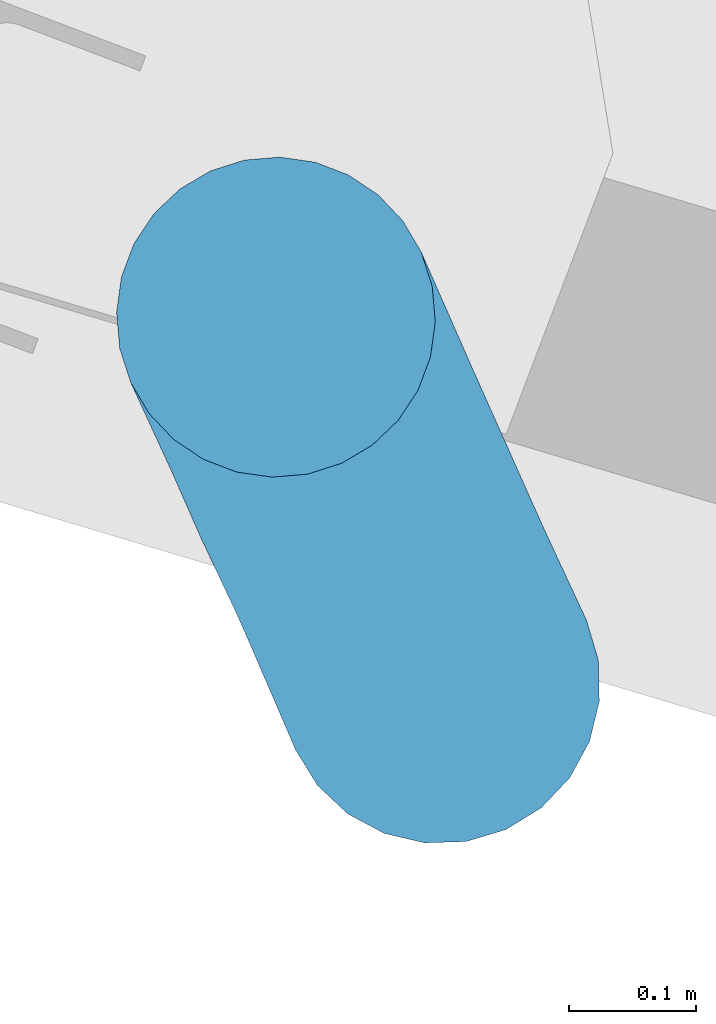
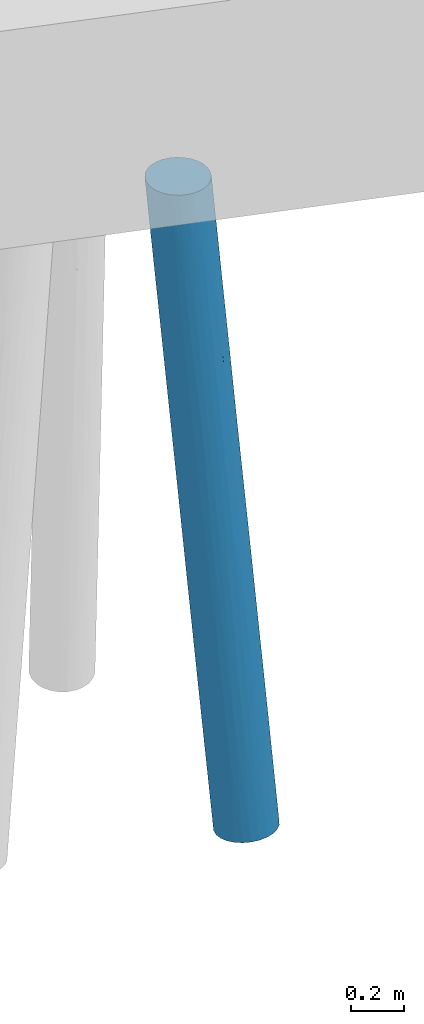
# One storey, part 2 of 46: 1 pile.
"""IFC2X3 building model written with IfcOpenShell, lengths in millimetres."""

from ifc_helpers import new_model, entity, si_unit, converted_unit, derived_unit, direction, frame, origin, place, context, subcontext, project, spatial, faceted_brep, source, transform, mapped, material, type_object, type_shapes, element, save


model = new_model("IFC2X3")

# Units and contexts
model_context = context("Model", 3, precision=0.01, world=origin(), true_north=direction((6.123233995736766e-17, 1.0)))
body_context = subcontext(model_context, "Body", "Model", "MODEL_VIEW")
ifc_project = project(units=[si_unit("LENGTHUNIT", "METRE", prefix="MILLI"), converted_unit("PLANEANGLEUNIT", "DEGREE", entity("IfcPlaneAngleMeasure", 0.017453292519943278), si_unit("PLANEANGLEUNIT", "RADIAN"), dimensions=[0, 0, 0, 0, 0, 0, 0]), si_unit("AREAUNIT", "SQUARE_METRE"), derived_unit("THERMALTRANSMITTANCEUNIT", [(si_unit("MASSUNIT", "GRAM", prefix="KILO"), 1), (si_unit("THERMODYNAMICTEMPERATUREUNIT", "KELVIN"), -1), (si_unit("TIMEUNIT", "SECOND"), -3)])], contexts=[model_context])

# Site, building, storey
site_placement = place(None, frame((-72937.88054949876, 11621.45624098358, 0.0), z_axis=(0.0, 0.0, 1.0), x_axis=(0.9346418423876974, -0.35559053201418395, 0.0)))
site = spatial("IfcSite", under=ifc_project, at=site_placement, Name="Default", CompositionType="ELEMENT")
building_placement = place(site_placement, origin())
building = spatial("IfcBuilding", under=site, at=building_placement, CompositionType="ELEMENT")
storey_placement = place(building_placement, origin())
storey = spatial("IfcBuildingStorey", under=building, at=storey_placement, Name="00 begane grond", CompositionType="ELEMENT", Elevation=0.0)

# Pile
ifc_material = material(Name="beton_gewapend_prefab-element_c45/55")
type_product = type_object("IfcTypeProduct", Name="Type 01", material=ifc_material)
shared_shape = source(origin(), body_context, "Body", "Brep", [
    faceted_brep([(72.36643070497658, 41.239861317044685, -1587.2480771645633), (115.53639022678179, 54.2354673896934, -1150.0), (124.838162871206, 27.815116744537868, -1150.0), (-182.0787577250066, 65.1457063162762, -1842.6627389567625), (-165.1894529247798, 41.33003827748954, -1588.4448595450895), (-111.09194578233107, 54.23546738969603, -1150.0), (15.031797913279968, 88.27496307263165, -1836.1297740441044), (32.98344934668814, 64.94314047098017, -1840.3127773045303), (-30.14575159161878, 64.60051474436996, -2410.3553271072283), (41.77006032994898, 0.0, -1925.992599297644), (80.6380595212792, 97.7289353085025, -1150.0), (100.55257203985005, 77.9362252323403, -1150.0), (-175.6519081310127, 115.48494156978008, -3184.035406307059), (-108.17343100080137, 106.74566752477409, -2732.5343267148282), (-180.54618184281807, 99.16916754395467, -3483.986786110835), (30.20851053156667, 121.8659890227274, -1150.0), (56.79144948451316, 112.62110848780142, -1150.0), (-42.91884640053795, 117.90464735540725, -1932.2038124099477), (-120.39371842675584, 27.81511674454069, -1150.0), (-245.70385641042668, 64.88368548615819, -2413.8437241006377), (-162.25875578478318, 88.50075404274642, -1830.9574517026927), (-242.98263969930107, 88.62069146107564, -2558.5627355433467), (-151.93048965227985, 53.33845094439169, -3561.073967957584), (-133.56769714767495, 28.49629953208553, -3474.2266886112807), (-194.4421984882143, 32.35238063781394, -4013.333582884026), (12.222467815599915, 106.275938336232, -1655.8961403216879), (-73.06982999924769, 124.27812918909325, -1949.1011896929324), (-80.64748703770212, 124.23668125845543, -1770.9263967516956), (-23.427620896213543, 124.20079095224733, -1508.6429901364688), (-240.21076201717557, 123.93060767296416, -3479.642475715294), (-314.4444444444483, 125.0, -4000.0), (-265.024992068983, 123.93060767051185, -3407.479310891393), (-117.33081280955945, 0.0, -3357.900457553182), (-190.20897761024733, 0.0, -4013.803940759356), (2.2222222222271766, 125.0, -1150.0), (-25.764066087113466, 121.86598902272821, -1150.0), (-326.96702366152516, 47.83542903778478, -3066.942589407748), (-375.2689438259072, 28.366113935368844, -3445.0277270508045), (-317.9689709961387, 23.60182842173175, -2920.157783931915), (-73.70805836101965, 23.187811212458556, -2945.6497765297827), (-39.92708990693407, 41.47720200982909, -2597.136214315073), (16.085837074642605, 41.18767244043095, -2093.938466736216), (-196.28435151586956, 123.47165352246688, -2760.095105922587), (-183.665203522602, 123.01104339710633, -3024.1067526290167), (-226.59670338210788, 88.38834764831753, -4009.7608601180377), (-252.3267110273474, 108.25317547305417, -4006.901970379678), (-148.27550792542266, 76.09517863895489, -3402.494577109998), (-206.8533741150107, 62.49999999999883, -4011.9545633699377), (-52.347005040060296, 112.62110848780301, -1150.0), (-99.40312932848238, 118.21391771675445, -1696.7443345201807), (-119.74622127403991, 106.37235269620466, -1653.229951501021), (-185.92128902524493, 102.46025049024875, -2194.904710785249), (-238.2779479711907, 106.2597512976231, -2718.3665211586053), (-42.820885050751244, 102.58547775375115, -2202.1491422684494), (-156.2252162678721, 118.09364807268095, -2204.9892079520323), (-319.0271104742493, 115.48494156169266, -3608.075760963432), (-264.72929865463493, 115.48494155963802, -3119.3954545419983), (-96.10812759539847, 77.93622523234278, -1150.0), (-76.19361507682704, 97.72893530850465, -1150.0), (-1.3402226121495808, 0.0, -2313.985145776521), (-44.451993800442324, 0.0, -2701.9910864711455), (-292.6922084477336, 91.63383624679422, -3034.349570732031), (-292.9202820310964, 72.79893776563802, -2886.1326580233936), (-227.31882224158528, 115.48494156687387, -3649.0376333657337), (-282.2899395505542, 120.74072828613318, -4003.5727227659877), (-221.60043037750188, 41.38232604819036, -2096.309657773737), (-209.76851175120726, 0.0, -1925.9934634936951), (-346.59894933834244, 120.74072828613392, -3996.4272772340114), (-376.56217786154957, 108.25317547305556, -3993.0980296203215), (-66.21715172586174, 88.15377228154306, -2568.4634430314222), (-129.97696806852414, 118.32629651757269, -2704.701988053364), (-123.5470158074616, 0.0, -1150.0), (-345.703852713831, 76.09517862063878, -3383.3196685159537), (-377.5274465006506, 52.979842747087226, -3542.5215927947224), (-275.88856858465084, 42.22399193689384, -2587.6075033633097), (-402.29218550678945, 88.38834764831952, -3990.239139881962), (-422.0355147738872, 62.50000000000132, -3988.0454366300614), (-331.8470727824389, 99.16916753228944, -3467.5525053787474), (-132.44344591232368, 124.68323586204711, -2281.458802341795), (-89.11715414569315, 71.65077909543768, -2899.5648185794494), (-96.52658231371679, 47.8354290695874, -3084.4998642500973), (127.99146025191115, 0.0, -1150.0), (-252.87925972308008, 0.0, -2313.9901952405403), (-122.93481462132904, 90.89446365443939, -3053.447507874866), (-438.679911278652, 0.0, -3986.1960592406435), (-434.4466904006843, 32.352380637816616, -3986.6664171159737), (-141.73877836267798, 124.16072599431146, -2576.5969257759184), (-210.06991733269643, 117.23436667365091, -2667.881922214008), (-367.33495948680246, 0.0, -3344.091493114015), (-295.9900076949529, 0.0, -2701.9869269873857), (-120.39371842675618, -27.815116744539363, -1150.0), (-111.09194578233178, -54.23546738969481, -1150.0), (-96.10812759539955, -77.93622523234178, -1150.0), (-76.1936150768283, -97.72893530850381, -1150.0), (-52.34700504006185, -112.62110848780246, -1150.0), (-25.76406608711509, -121.86598902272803, -1150.0), (2.222222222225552, -125.0, -1150.0), (30.20851053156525, -121.86598902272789, -1150.0), (56.79144948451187, -112.62110848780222, -1150.0), (80.63805952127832, -97.7289353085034, -1150.0), (100.55257203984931, -77.93622523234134, -1150.0), (115.53639022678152, -54.23546738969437, -1150.0), (124.83816287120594, -27.815116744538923, -1150.0), (-151.9304895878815, -53.338451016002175, -3561.073967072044), (-133.5676976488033, -28.496299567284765, -3474.2266930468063), (-96.52658225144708, -47.83542901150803, -3084.4998639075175), (-140.32328536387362, -105.94191584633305, -1832.1538289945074), (-126.78568187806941, -88.44799753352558, -1511.2211246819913), (-176.7825211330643, -87.58614607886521, -1953.453255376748), (-185.53475823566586, -41.3488976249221, -1771.6124540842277), (-98.5233768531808, -124.24251446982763, -1932.2861052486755), (-221.49211536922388, -66.66107193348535, -2205.8974607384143), (-159.3540506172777, -67.83984168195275, -1653.46778938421), (-312.10423006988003, -99.16916769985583, -3289.866922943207), (-352.8086337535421, -76.09517892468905, -3447.262699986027), (-402.2921855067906, -88.38834764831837, -3990.239139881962), (-235.41358059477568, -123.93060766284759, -3436.4678436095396), (-314.44444444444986, -125.0, -4000.0), (-282.2899395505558, -120.74072828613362, -4003.5727227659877), (-384.2243809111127, -47.83542945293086, -3582.258806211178), (-328.2998352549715, -47.83542988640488, -3078.9378969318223), (-362.94366171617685, -26.27355326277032, -3329.855963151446), (-376.562177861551, -108.25317547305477, -3993.0980296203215), (-226.59670338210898, -88.38834764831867, -4009.7608601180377), (-148.27550783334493, -76.0951785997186, -3402.49457655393), (-180.54618171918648, -99.16916751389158, -3483.9867853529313), (-104.92272192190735, -118.27912572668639, -1748.1433712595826), (-163.52036571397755, -118.46525212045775, -2280.4898650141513), (-39.927089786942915, -41.4772017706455, -2597.1362139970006), (-89.11715398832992, -71.6507788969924, -2899.5648184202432), (-221.11735801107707, -106.04994682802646, -2560.8655013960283), (-274.28881423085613, -82.15433137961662, -2785.484682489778), (-434.4466904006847, -32.35238063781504, -3986.6664171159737), (-422.03551477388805, -62.49999999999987, -3988.0454366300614), (-129.97696798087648, -118.32629644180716, -2704.7019892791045), (-141.73877802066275, -124.16072595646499, -2576.596925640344), (-180.90977316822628, -122.95522291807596, -3002.087637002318), (-232.56829871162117, -117.68101498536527, -2881.4778788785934), (-242.59310629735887, -123.930607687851, -3205.592340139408), (-180.2811496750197, -124.04234815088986, -2652.6852150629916), (-346.598949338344, -120.7407282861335, -3996.4272772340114), (-301.7888662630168, -115.48494161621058, -3452.931564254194), (-206.85337411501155, -62.50000000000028, -4011.9545633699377), (-29.559553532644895, -124.19873841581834, -1563.993853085), (-83.4987298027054, -124.18127902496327, -2050.828488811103), (-42.91884618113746, -117.90464729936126, -1932.2038118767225), (-30.14575143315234, -64.60051457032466, -2410.3553266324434), (32.983449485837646, -64.94314037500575, -1840.3127765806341), (15.03179802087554, -88.27496298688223, -1836.1297738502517), (12.222467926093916, -106.27593827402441, -1655.89614023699), (-42.820884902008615, -102.58547764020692, -2202.149142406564), (-73.70805863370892, -23.18781108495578, -2945.6497792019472), (72.36643080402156, -41.2398612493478, -1587.2480764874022), (16.08583725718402, -41.18767230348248, -2093.9384655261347), (-221.94118502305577, -91.78881553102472, -2399.105716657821), (-122.93481449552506, -90.89446347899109, -3053.447508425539), (-66.2171515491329, -88.15377212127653, -2568.463442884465), (-108.173430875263, -106.74566744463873, -2732.534326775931), (-262.27997921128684, -34.77836369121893, -2443.29023072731), (-252.32671102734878, -108.25317547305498, -4006.901970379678), (-227.31882233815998, -115.48494155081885, -3649.0376345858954), (-277.036285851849, -61.03344887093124, -2675.5040755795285), (-194.44219848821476, -32.35238063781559, -4013.333582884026), (-312.1095376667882, -26.52940126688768, -2872.8494770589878), (-175.65190824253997, -115.48494153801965, -3184.0354080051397)], [[[0, 1, 2]], [[3, 4, 5]], [[6, 7, 8]], [[0, 2, 9]], [[10, 11, 6]], [[12, 13, 14]], [[15, 16, 17]], [[18, 5, 4]], [[19, 20, 21]], [[22, 23, 24]], [[25, 16, 10]], [[26, 27, 28]], [[29, 30, 31]], [[23, 32, 33]], [[7, 6, 11]], [[34, 27, 35]], [[36, 37, 38]], [[23, 39, 32]], [[40, 8, 41]], [[31, 42, 43]], [[14, 44, 45]], [[19, 3, 20]], [[34, 15, 28]], [[46, 47, 44]], [[48, 49, 50]], [[51, 52, 21]], [[17, 25, 53]], [[46, 22, 47]], [[49, 54, 50]], [[31, 55, 56]], [[20, 57, 58]], [[41, 9, 59, 60]], [[21, 61, 62]], [[41, 7, 0]], [[63, 45, 64]], [[4, 65, 66]], [[57, 3, 5]], [[50, 51, 20]], [[55, 67, 68]], [[56, 42, 31]], [[13, 53, 69]], [[12, 70, 13]], [[66, 71, 18]], [[36, 72, 73]], [[31, 30, 67]], [[36, 38, 74]], [[21, 52, 61]], [[74, 62, 36]], [[36, 73, 37]], [[72, 75, 76]], [[72, 77, 75]], [[50, 20, 58]], [[46, 44, 14]], [[7, 41, 8]], [[42, 54, 78]], [[26, 78, 27]], [[79, 40, 80]], [[9, 2, 81]], [[82, 66, 65]], [[60, 39, 40]], [[83, 14, 13]], [[77, 68, 75]], [[84, 37, 85]], [[21, 62, 19]], [[29, 64, 30]], [[31, 43, 29]], [[83, 79, 46]], [[12, 14, 63]], [[68, 77, 55]], [[77, 61, 52]], [[64, 29, 63]], [[43, 70, 12]], [[7, 11, 1]], [[41, 0, 9]], [[1, 0, 7]], [[69, 6, 8]], [[69, 8, 79]], [[40, 79, 8]], [[18, 4, 66]], [[65, 4, 3]], [[19, 65, 3]], [[20, 3, 57]], [[65, 19, 74]], [[72, 36, 62]], [[86, 42, 78]], [[52, 87, 56]], [[69, 79, 83]], [[46, 79, 80]], [[13, 69, 83]], [[14, 83, 46]], [[6, 69, 53]], [[86, 17, 70]], [[6, 53, 25]], [[17, 53, 70]], [[6, 25, 10]], [[16, 25, 17]], [[80, 40, 39]], [[40, 41, 60]], [[80, 39, 23]], [[39, 60, 32]], [[80, 23, 22]], [[24, 23, 33]], [[80, 22, 46]], [[47, 22, 24]], [[74, 19, 62]], [[77, 72, 61]], [[62, 61, 72]], [[56, 77, 52]], [[42, 56, 87]], [[20, 51, 21]], [[51, 54, 52]], [[54, 49, 27]], [[51, 50, 54]], [[48, 50, 58]], [[53, 13, 70]], [[86, 70, 43]], [[86, 43, 42]], [[29, 43, 12]], [[67, 55, 31]], [[82, 65, 74]], [[38, 88, 89, 82]], [[88, 38, 37]], [[88, 37, 84]], [[76, 85, 73]], [[37, 73, 85]], [[76, 73, 72]], [[87, 54, 42]], [[87, 52, 54]], [[82, 74, 38]], [[56, 55, 77]], [[17, 86, 26]], [[27, 78, 54]], [[78, 26, 86]], [[15, 17, 28]], [[34, 28, 27]], [[26, 28, 17]], [[45, 63, 14]], [[12, 63, 29]], [[49, 35, 27]], [[35, 49, 48]], [[48, 58, 57, 5, 18, 71, 90, 91, 92, 93, 94, 95, 96, 97, 98, 99, 100, 101, 102, 81, 2, 1, 11, 10, 16, 15, 34, 35]], [[103, 104, 105]], [[9, 81, 102]], [[106, 107, 108]], [[91, 90, 109]], [[96, 95, 110]], [[109, 111, 112]], [[113, 114, 115]], [[116, 117, 118]], [[93, 106, 94]], [[119, 120, 121]], [[122, 113, 115]], [[112, 111, 108]], [[123, 124, 125]], [[126, 127, 110]], [[88, 84, 121]], [[90, 71, 66]], [[128, 129, 105]], [[130, 131, 113]], [[127, 126, 106]], [[119, 132, 133]], [[134, 135, 136]], [[137, 138, 139]], [[122, 140, 141]], [[124, 123, 142]], [[143, 144, 145]], [[146, 147, 148]], [[149, 150, 148]], [[114, 113, 131]], [[105, 104, 151]], [[144, 134, 145]], [[152, 153, 9]], [[113, 122, 141]], [[98, 97, 145]], [[126, 95, 94]], [[99, 148, 100]], [[137, 141, 138]], [[154, 131, 130]], [[105, 151, 128]], [[138, 140, 117]], [[138, 117, 116]], [[155, 156, 157]], [[143, 97, 96]], [[66, 158, 109]], [[159, 160, 118]], [[134, 150, 145]], [[102, 101, 152]], [[105, 124, 103]], [[109, 158, 111]], [[156, 146, 148]], [[91, 112, 92]], [[156, 155, 129]], [[101, 100, 147]], [[147, 152, 101]], [[148, 99, 149]], [[150, 157, 156]], [[111, 158, 161]], [[109, 90, 66]], [[114, 133, 115]], [[113, 141, 137]], [[125, 159, 123]], [[59, 9, 153]], [[33, 104, 162]], [[156, 129, 146]], [[136, 139, 138]], [[120, 158, 163]], [[164, 116, 160]], [[133, 114, 119]], [[111, 161, 131]], [[120, 114, 161]], [[154, 108, 111]], [[130, 113, 137]], [[141, 140, 138]], [[121, 120, 163]], [[158, 66, 82, 89]], [[159, 125, 160]], [[125, 155, 157]], [[102, 152, 9]], [[153, 152, 147]], [[146, 153, 147]], [[148, 147, 100]], [[153, 146, 128]], [[124, 105, 129]], [[137, 127, 130]], [[139, 136, 135]], [[130, 127, 106]], [[139, 144, 110]], [[139, 127, 137]], [[127, 139, 110]], [[128, 146, 129]], [[125, 124, 155]], [[129, 155, 124]], [[164, 125, 157]], [[164, 157, 134]], [[148, 150, 156]], [[157, 150, 134]], [[98, 145, 149]], [[150, 149, 145]], [[98, 149, 99]], [[109, 112, 91]], [[59, 153, 128]], [[151, 32, 60]], [[32, 151, 104]], [[32, 104, 33]], [[142, 162, 103]], [[104, 103, 162]], [[142, 103, 124]], [[106, 126, 94]], [[126, 110, 95]], [[116, 164, 136]], [[144, 135, 134]], [[134, 136, 164]], [[116, 136, 138]], [[121, 84, 132]], [[120, 119, 114]], [[119, 121, 132]], [[89, 88, 163]], [[121, 163, 88]], [[163, 158, 89]], [[128, 151, 60]], [[128, 60, 59]], [[107, 93, 92]], [[107, 92, 112]], [[130, 106, 154]], [[93, 107, 106]], [[108, 107, 112]], [[135, 144, 139]], [[96, 110, 143]], [[97, 143, 145]], [[144, 143, 110]], [[118, 160, 116]], [[164, 160, 125]], [[131, 161, 114]], [[120, 161, 158]], [[131, 154, 111]], [[108, 154, 106]], [[115, 133, 132, 84, 85, 76, 75, 68, 67, 30, 64, 45, 44, 47, 24, 33, 162, 142, 123, 159, 118, 117, 140, 122]]]),
])
type_shapes(type_product, [shared_shape])
pile_placement = place(storey_placement, frame((57870.0, 14363.193691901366, 0.0), z_axis=(0.0, 0.0, 1.0), x_axis=(-0.7071067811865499, 0.7071067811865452, 0.0)))
element("IfcPile", 1, at=pile_placement, inside=storey, type_object=type_product, material=ifc_material, Name="17.21_Prefab funderingspaal rond", ObjectType="prefab paal rond", PredefinedType="NOTDEFINED", context=body_context, shape_type="MappedRepresentation", body=[
    mapped(shared_shape, transform((0.0, 0.0, 0.0), scale=1.0)),
])

save(model, "model.ifc")
